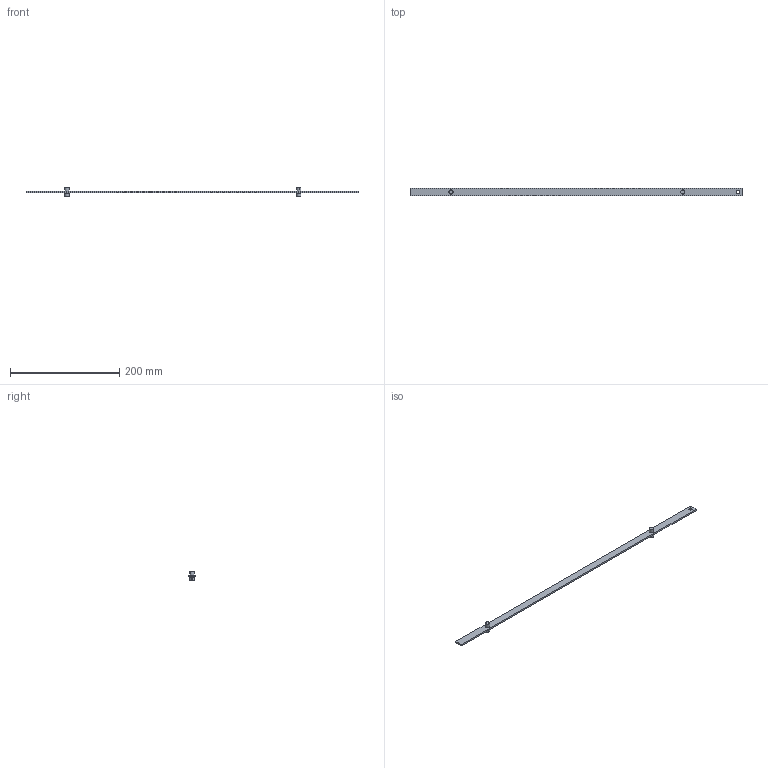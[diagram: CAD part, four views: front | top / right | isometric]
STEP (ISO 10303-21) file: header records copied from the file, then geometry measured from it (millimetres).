
FILE_DESCRIPTION (( 'STEP AP214' ), '1' );
FILE_NAME ('PK28-601.STEP', '2016-08-18T09:52:42', ( 'RST-Dolba' ), ( '' ), 'SwSTEP 2.0', 'SolidWorks 2015', '' );
FILE_SCHEMA (( 'AUTOMOTIVE_DESIGN' ));
Length unit declared in the file: millimetre
Products named in the file (4): PK28-601; 1C.PDB.02.02.00_A; 1C.PDB.02.01.00_A; 1C.PD.B.Z.X.Y.01_PK28-601
Assembly tree (5 placements, depth 2):
  PK28-601
    1C.PD.B.Z.X.Y.01_PK28-601
    1C.PDB.02.01.00_A  x2
    1C.PDB.02.02.00_A  x2
Bounding box: 608.5 x 14 x 18.1 mm (x, y, z)
Volume: 26941.3 mm3; surface area: 22342.9 mm2
Topology: 5 solids, 5 shells, 74 faces, 156 edges, 94 vertices
Faces by surface type: cylinder 28, cone 24, plane 22
Entity records: 1378 total; most frequent: DIRECTION 240, CARTESIAN_POINT 205, ORIENTED_EDGE 188, EDGE_CURVE 94, AXIS2_PLACEMENT_3D 94, VERTEX_POINT 59, EDGE_LOOP 55, VECTOR 52
